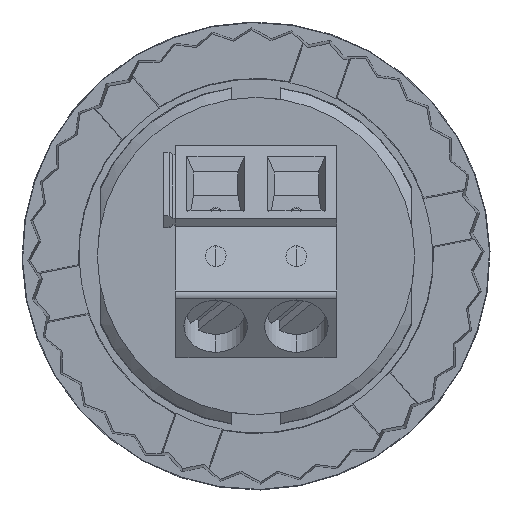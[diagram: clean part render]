
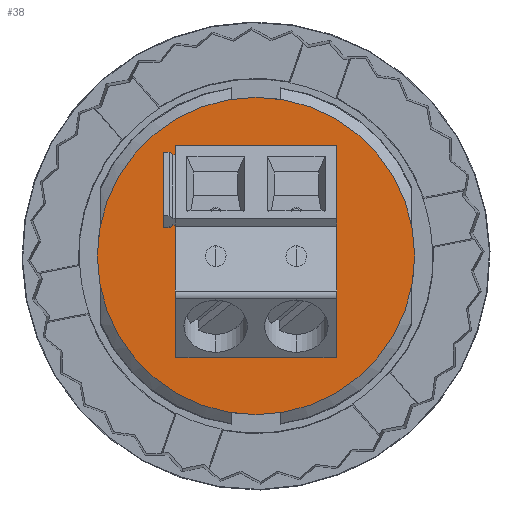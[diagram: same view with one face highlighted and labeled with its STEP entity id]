
A CAD part, front view. The second image highlights one B-rep face of the part: STEP entity #38.
In plain terms, the highlighted planar face has unit normal (0, -1, 0).
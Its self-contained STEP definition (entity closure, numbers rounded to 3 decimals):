
#38 = ADVANCED_FACE ( 'NONE', ( #15950, #3584 ), #32386, .T. ) ;
#1689 = LINE ( 'NONE', #46552, #29464 ) ;
#2782 = EDGE_LOOP ( 'NONE', ( #72080 ) ) ;
#3584 = FACE_OUTER_BOUND ( 'NONE', #2782, .T. ) ;
#7218 = LINE ( 'NONE', #21876, #68857 ) ;
#7669 = ORIENTED_EDGE ( 'NONE', *, *, #55535, .F. ) ;
#8140 = DIRECTION ( 'NONE',  ( -1., 0., 0. ) ) ;
#8579 = LINE ( 'NONE', #87952, #54599 ) ;
#13278 = VERTEX_POINT ( 'NONE', #28740 ) ;
#15363 = CARTESIAN_POINT ( 'NONE',  ( 5.587, 2.596, 29.469 ) ) ;
#15950 = FACE_BOUND ( 'NONE', #57719, .T. ) ;
#17652 = EDGE_CURVE ( 'NONE', #13278, #58285, #8579, .T. ) ;
#21876 = CARTESIAN_POINT ( 'NONE',  ( 0.537, 2.596, 34.869 ) ) ;
#22591 = CARTESIAN_POINT ( 'NONE',  ( 0.537, 2.596, 23.069 ) ) ;
#23209 = DIRECTION ( 'NONE',  ( 0., 0., 1. ) ) ;
#23957 = CARTESIAN_POINT ( 'NONE',  ( 10.637, 2.596, 34.869 ) ) ;
#24721 = EDGE_CURVE ( 'NONE', #31706, #13278, #1689, .T. ) ;
#24862 = CARTESIAN_POINT ( 'NONE',  ( 0.537, 2.596, 23.069 ) ) ;
#25455 = VECTOR ( 'NONE', #43864, 1000. ) ;
#28740 = CARTESIAN_POINT ( 'NONE',  ( 10.637, 2.596, 23.069 ) ) ;
#29464 = VECTOR ( 'NONE', #75293, 1000. ) ;
#31706 = VERTEX_POINT ( 'NONE', #24862 ) ;
#32386 = PLANE ( 'NONE',  #61450 ) ;
#41433 = CIRCLE ( 'NONE', #70051, 10. ) ;
#43864 = DIRECTION ( 'NONE',  ( 0., 0., -1. ) ) ;
#45558 = DIRECTION ( 'NONE',  ( 0., 0., 1. ) ) ;
#46552 = CARTESIAN_POINT ( 'NONE',  ( 0.537, 2.596, 23.069 ) ) ;
#48431 = ORIENTED_EDGE ( 'NONE', *, *, #24721, .F. ) ;
#48450 = DIRECTION ( 'NONE',  ( 0., 0., -1. ) ) ;
#54599 = VECTOR ( 'NONE', #23209, 1000. ) ;
#55535 = EDGE_CURVE ( 'NONE', #58285, #83636, #7218, .T. ) ;
#57719 = EDGE_LOOP ( 'NONE', ( #7669, #58062, #48431, #66383 ) ) ;
#58062 = ORIENTED_EDGE ( 'NONE', *, *, #17652, .F. ) ;
#58285 = VERTEX_POINT ( 'NONE', #23957 ) ;
#61450 = AXIS2_PLACEMENT_3D ( 'NONE', #63035, #91865, #48450 ) ;
#63035 = CARTESIAN_POINT ( 'NONE',  ( 5.587, 2.596, 29.469 ) ) ;
#65533 = EDGE_CURVE ( 'NONE', #83636, #31706, #73091, .T. ) ;
#65885 = CARTESIAN_POINT ( 'NONE',  ( 5.587, 2.596, 39.469 ) ) ;
#66332 = VERTEX_POINT ( 'NONE', #65885 ) ;
#66383 = ORIENTED_EDGE ( 'NONE', *, *, #65533, .F. ) ;
#68857 = VECTOR ( 'NONE', #8140, 1000. ) ;
#70051 = AXIS2_PLACEMENT_3D ( 'NONE', #15363, #81423, #45558 ) ;
#72080 = ORIENTED_EDGE ( 'NONE', *, *, #79858, .F. ) ;
#73091 = LINE ( 'NONE', #22591, #25455 ) ;
#75293 = DIRECTION ( 'NONE',  ( 1., 0., 0. ) ) ;
#79858 = EDGE_CURVE ( 'NONE', #66332, #66332, #41433, .T. ) ;
#81423 = DIRECTION ( 'NONE',  ( 0., 1., 0. ) ) ;
#82683 = CARTESIAN_POINT ( 'NONE',  ( 0.537, 2.596, 34.869 ) ) ;
#83636 = VERTEX_POINT ( 'NONE', #82683 ) ;
#87952 = CARTESIAN_POINT ( 'NONE',  ( 10.637, 2.596, 23.069 ) ) ;
#91865 = DIRECTION ( 'NONE',  ( 0., -1., 0. ) ) ;
